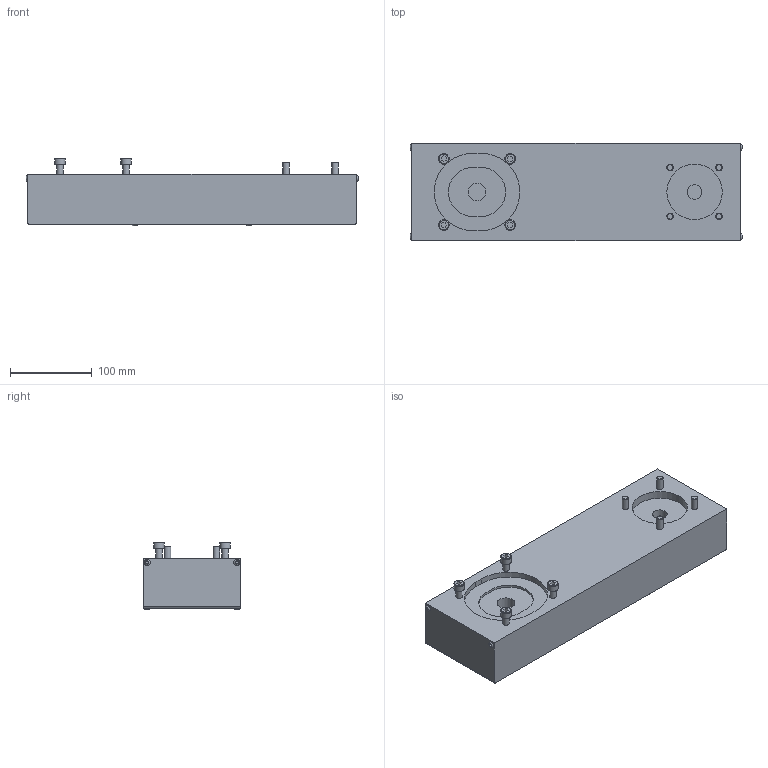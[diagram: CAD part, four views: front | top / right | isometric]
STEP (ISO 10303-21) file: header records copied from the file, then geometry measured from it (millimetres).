
FILE_DESCRIPTION(/* description */ (''),/* implementation_level */ '2;1');
FILE_NAME(/* name */ 'O:\LINEARNE ENOTE\STRANSKI POGON CTV\CTV 200 MTV 110\DUMMY MODELI\izvoz\MSD CTV 200 T1 2 100 X 100.stp',/* time_stamp */ '2019-04-24T08:20:57+02:00',/* author */ ('Hypex'),/* organization */ ('Hypex'),/* preprocessor_version */ 'ST-DEVELOPER v17',/* originating_system */ 'Autodesk Inventor 2018',/* authorisation */ '');
FILE_SCHEMA (('AUTOMOTIVE_DESIGN { 1 0 10303 214 3 1 1 }'));
Length unit declared in the file: millimetre
Products named in the file (1): MSD CTV 200 T1 2 100 X 100
Bounding box: 407.4 x 120 x 83.2 mm (x, y, z)
Volume: 2826967.2 mm3; surface area: 176476.5 mm2
Topology: 1 solids, 1 shells, 164 faces, 373 edges, 248 vertices
Faces by surface type: plane 119, cylinder 29, bspline 8, torus 4, cone 4
Full cylindrical faces by diameter (mm): 7.6 x8, 8 x8, 13 x4, 18 x1, 22 x1, 68 x1
Entity records: 4816 total; most frequent: CARTESIAN_POINT 994, DIRECTION 787, ORIENTED_EDGE 746, EDGE_CURVE 373, LINE 273, VECTOR 273, AXIS2_PLACEMENT_3D 257, VERTEX_POINT 248
